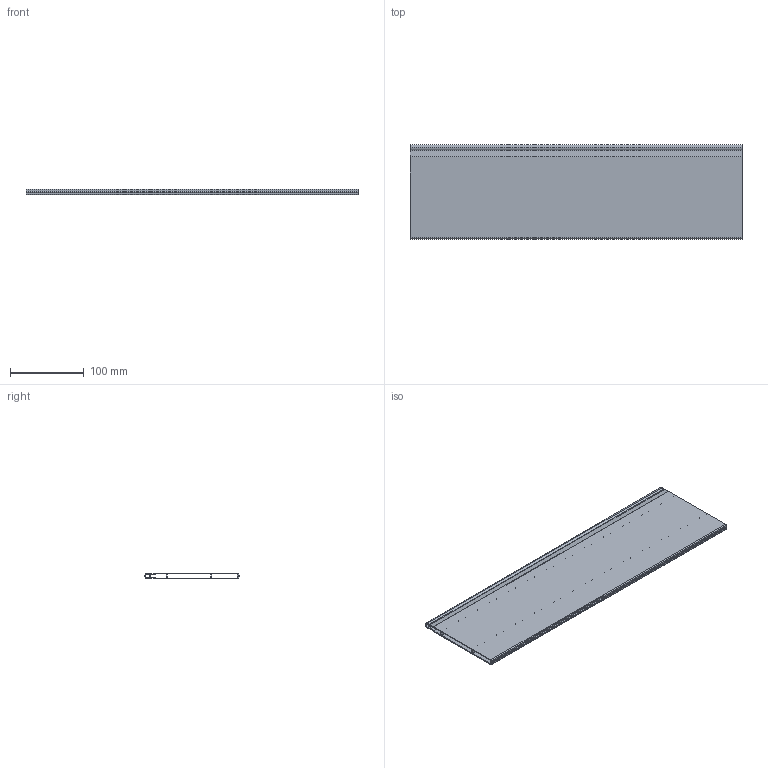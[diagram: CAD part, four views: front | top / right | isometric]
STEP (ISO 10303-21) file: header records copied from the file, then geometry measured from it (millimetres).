
FILE_DESCRIPTION (( 'STEP AP214' ), '1' );
FILE_NAME ('_Magic Optima Unterteilungsprofil DWD XP Agantis_Nova Pro KAB 600.step', '2010-08-17T12:26:46', ( 'grass' ), ( '' ), 'SwSTEP 2.0', 'SolidWorks 2010', '' );
FILE_SCHEMA (( 'AUTOMOTIVE_DESIGN' ));
Length unit declared in the file: millimetre
Products named in the file (1): _Magic Optima Unterteilungsprofil DWD XP Agantis_Nova Pro  KAB 600
Bounding box: 450 x 127.7 x 8.1 mm (x, y, z)
Volume: 157735.5 mm3; surface area: 244690.4 mm2
Topology: 1 solids, 1 shells, 39 faces, 111 edges, 74 vertices
Faces by surface type: plane 22, cylinder 17
Entity records: 1325 total; most frequent: DIRECTION 225, CARTESIAN_POINT 225, ORIENTED_EDGE 222, EDGE_CURVE 111, LINE 77, VECTOR 77, AXIS2_PLACEMENT_3D 74, VERTEX_POINT 74
